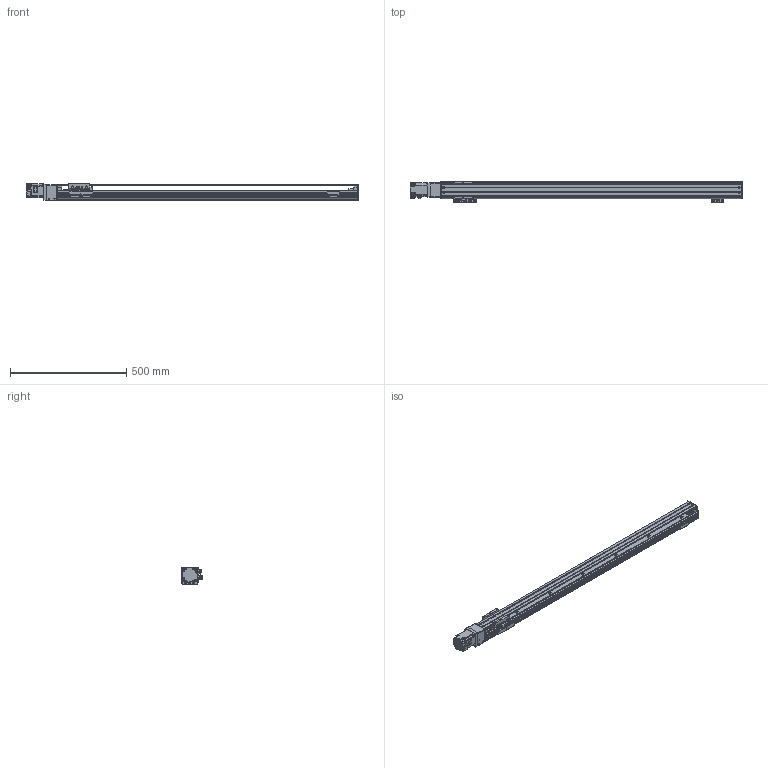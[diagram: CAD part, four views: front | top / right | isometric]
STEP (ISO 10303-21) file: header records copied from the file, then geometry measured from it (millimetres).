
FILE_DESCRIPTION(/* description */ (''),/* implementation_level */ '2;1');
FILE_NAME(/* name */ '\\192.168.0.160\disk1\HAN SHIN Master\B-설계부문\C-표준\B-2024년\BC02-표준도면\+로봇 개선표준도면\표준 승인도 작업 폴더\3D\HG75\HG75직렬\HG75-S20-N1B-1100-R10.stp',/* time_stamp */ '2024-02-01T16:33:22+09:00',/* author */ ('User'),/* organization */ (''),/* preprocessor_version */ 'ST-DEVELOPER v18.1',/* originating_system */ 'Autodesk Inventor 2022',/* authorisation */ '');
FILE_SCHEMA (('AUTOMOTIVE_DESIGN { 1 0 10303 214 3 1 1 }'));
Length unit declared in the file: millimetre
Products named in the file (21): HG75-S20-N1B-0500-R10 - 간소화; BASE; HR75 FRONT BLOCK; HR75 REAR COVER-TENTION; HR75 TENSION REAR BLOCK; HG3UPCOV001; H 15F_BLOCK; COUPLING COVER; HR75 REAR COVER; HR65,75 SENSOR DOG; HG90STOPPER - 20L; HG90STOPPER - 27L; hg-kr23_; HG75 S MOTOR PLATE-B; HG75 S MOTOR PLATE-M; hsr_ftht_A-M6F_grease_nipple_joint; NIPPLE CAP(신규); HR75 W TABLE; LMKE1520 NUT; SENSOR BRK(EE-SX674A); EE_SX674A
Assembly tree (26 placements, depth 2):
  HG75-S20-N1B-0500-R10 - 간소화
    BASE
    HR75 FRONT BLOCK
    HR75 REAR COVER-TENTION
    SENSOR BRK(EE-SX674A)  x3
    EE_SX674A  x3
    HR75 TENSION REAR BLOCK
    HG3UPCOV001
    H 15F_BLOCK
    COUPLING COVER
    HR75 REAR COVER
    HR65,75 SENSOR DOG
    HG90STOPPER - 20L
    HG90STOPPER - 27L
    hg-kr23_
    HG75 S MOTOR PLATE-B
    HG75 S MOTOR PLATE-M
    hsr_ftht_A-M6F_grease_nipple_joint  x2
    NIPPLE CAP(신규)  x2
    HR75 W TABLE
    LMKE1520 NUT
Bounding box: 1427.6 x 94 x 73 mm (x, y, z)
Volume: 1989145.8 mm3; surface area: 869746.4 mm2
Topology: 26 solids, 26 shells, 1484 faces, 3963 edges, 2602 vertices
Faces by surface type: plane 742, cylinder 581, cone 125, sphere 16, torus 12, bspline 8
Full cylindrical faces by diameter (mm): 2 x4, 2.013 x2, 2.459 x12, 3 x4, 3.242 x30, 3.5 x6, 4.134 x51, 4.5 x18, 4.917 x5, 5 x38, 5.5 x35, 5.6 x10, 5.8 x4, 5.9 x8, 6 x6, 6.5 x4, 9.5 x31, 14 x1, 15 x3, 17 x1, 25 x2, 28 x1, 32 x2, 33.7 x1, 34 x1, 40 x1, 50 x2
Entity records: 40915 total; most frequent: CARTESIAN_POINT 7808, DIRECTION 6876, ORIENTED_EDGE 6486, EDGE_CURVE 3243, AXIS2_PLACEMENT_3D 2473, VERTEX_POINT 2163, LINE 1930, VECTOR 1930
